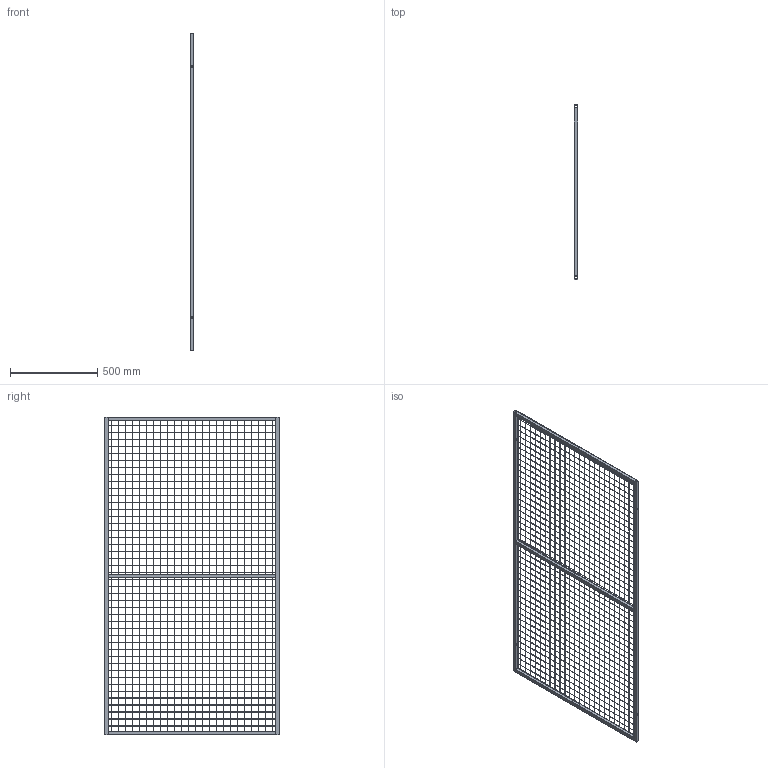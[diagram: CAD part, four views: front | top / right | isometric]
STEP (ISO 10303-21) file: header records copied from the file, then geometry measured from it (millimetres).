
FILE_DESCRIPTION (( 'STEP AP203' ), '1' );
FILE_NAME ('1000.STEP', '2023-03-14T02:47:27', ( '504148165@qq.com' ), ( '' ), 'SwSTEP 2.0', 'SolidWorks 2021', '' );
FILE_SCHEMA (( 'CONFIG_CONTROL_DESIGN' ));
Length unit declared in the file: millimetre
Products named in the file (4): 1000厙え; 1000; 1820
Assembly tree (6 placements, depth 2):
  1000
    1820  x2
    1000  x3
    1000厙え
Bounding box: 21 x 1000 x 1820 mm (x, y, z)
Volume: 1023943.4 mm3; surface area: 1284982 mm2
Topology: 73 solids, 73 shells, 474 faces, 984 edges, 656 vertices
Faces by surface type: plane 458, cylinder 16
Entity records: 11588 total; most frequent: CARTESIAN_POINT 1925, DIRECTION 1794, ORIENTED_EDGE 1776, EDGE_CURVE 888, VECTOR 872, LINE 872, VERTEX_POINT 592, AXIS2_PLACEMENT_3D 461
